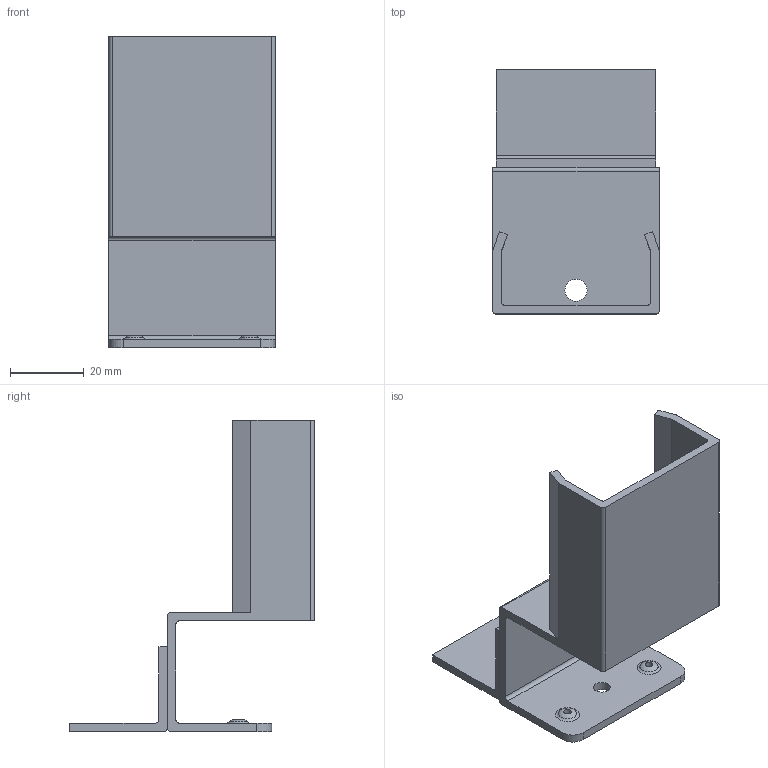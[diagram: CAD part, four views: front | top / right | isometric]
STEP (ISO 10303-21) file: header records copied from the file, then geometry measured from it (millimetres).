
FILE_DESCRIPTION (( 'STEP AP214' ), '1' );
FILE_NAME ('990-006.step', '2022-09-28T08:51:49', ( '' ), ( '' ), 'SwSTEP 2.0', 'SolidWorks 2021', '' );
FILE_SCHEMA (( 'AUTOMOTIVE_DESIGN' ));
Length unit declared in the file: millimetre
Products named in the file (1): 990-006
Bounding box: 45.1 x 66.3 x 84.3 mm (x, y, z)
Volume: 24657.4 mm3; surface area: 22649.5 mm2
Topology: 2 solids, 2 shells, 52 faces, 141 edges, 93 vertices
Faces by surface type: plane 28, cylinder 18, bspline 6
Full cylindrical faces by diameter (mm): 2 x2, 3.5 x2, 4.5 x1, 6 x1
Entity records: 1749 total; most frequent: CARTESIAN_POINT 443, DIRECTION 254, ORIENTED_EDGE 252, EDGE_CURVE 126, VERTEX_POINT 90, AXIS2_PLACEMENT_3D 85, VECTOR 84, LINE 84
